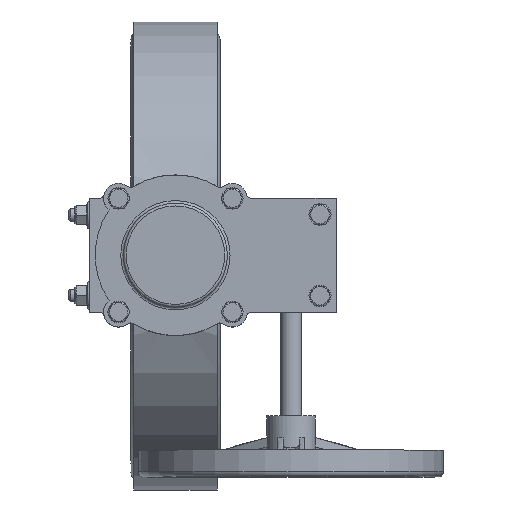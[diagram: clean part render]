
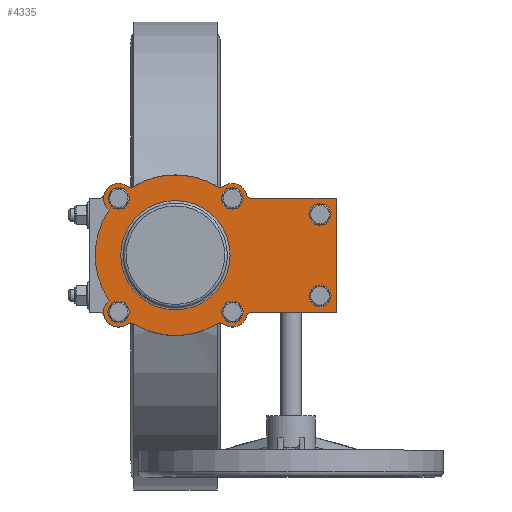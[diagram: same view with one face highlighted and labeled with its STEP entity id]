
A CAD part, top view. The second image highlights one B-rep face of the part: STEP entity #4335.
In plain terms, the highlighted planar face has unit normal (0, 0, 1).
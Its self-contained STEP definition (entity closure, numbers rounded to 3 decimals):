
#4335=ADVANCED_FACE('',(#8663,#8665,#8667,#8669,#8671,#8673,#8675,#8677),#8679,.T.);
#8663=FACE_BOUND('',#8664,.T.);
#8664=EDGE_LOOP('',(#15785,#15786,#15787,#15788,#15789,#15790,#15791,#15792,#15793,
#15794,#15795,#15796,#15797,#15798,#15799,#15800));
#8665=FACE_BOUND('',#8666,.T.);
#8666=EDGE_LOOP('',(#15801));
#8667=FACE_BOUND('',#8668,.T.);
#8668=EDGE_LOOP('',(#15802));
#8669=FACE_BOUND('',#8670,.T.);
#8670=EDGE_LOOP('',(#15803));
#8671=FACE_BOUND('',#8672,.T.);
#8672=EDGE_LOOP('',(#15804));
#8673=FACE_BOUND('',#8674,.T.);
#8674=EDGE_LOOP('',(#15805));
#8675=FACE_BOUND('',#8676,.T.);
#8676=EDGE_LOOP('',(#15806));
#8677=FACE_BOUND('',#8678,.T.);
#8678=EDGE_LOOP('',(#15807));
#8679=PLANE('',#8680);
#8680=AXIS2_PLACEMENT_3D('',#8681,#8682,#8683);
#8681=CARTESIAN_POINT('',(0.,0.,5.));
#8682=DIRECTION('',(0.,0.,1.));
#8683=DIRECTION('',(0.,1.,0.));
#15785=ORIENTED_EDGE('',*,*,#17760,.T.);
#15786=ORIENTED_EDGE('',*,*,#17761,.T.);
#15787=ORIENTED_EDGE('',*,*,#17762,.T.);
#15788=ORIENTED_EDGE('',*,*,#17763,.T.);
#15789=ORIENTED_EDGE('',*,*,#17764,.T.);
#15790=ORIENTED_EDGE('',*,*,#17765,.T.);
#15791=ORIENTED_EDGE('',*,*,#17766,.T.);
#15792=ORIENTED_EDGE('',*,*,#17767,.T.);
#15793=ORIENTED_EDGE('',*,*,#17768,.T.);
#15794=ORIENTED_EDGE('',*,*,#17769,.T.);
#15795=ORIENTED_EDGE('',*,*,#17770,.T.);
#15796=ORIENTED_EDGE('',*,*,#17771,.T.);
#15797=ORIENTED_EDGE('',*,*,#17772,.T.);
#15798=ORIENTED_EDGE('',*,*,#17773,.T.);
#15799=ORIENTED_EDGE('',*,*,#17774,.T.);
#15800=ORIENTED_EDGE('',*,*,#17775,.T.);
#15801=ORIENTED_EDGE('',*,*,#17776,.T.);
#15802=ORIENTED_EDGE('',*,*,#17777,.T.);
#15803=ORIENTED_EDGE('',*,*,#17778,.T.);
#15804=ORIENTED_EDGE('',*,*,#17779,.T.);
#15805=ORIENTED_EDGE('',*,*,#17780,.T.);
#15806=ORIENTED_EDGE('',*,*,#17781,.T.);
#15807=ORIENTED_EDGE('',*,*,#17782,.F.);
#17760=EDGE_CURVE('',#20249,#20250,#20251,.T.);
#17761=EDGE_CURVE('',#20250,#20252,#20253,.T.);
#17762=EDGE_CURVE('',#20252,#20254,#20255,.T.);
#17763=EDGE_CURVE('',#20254,#20256,#20257,.T.);
#17764=EDGE_CURVE('',#20256,#20258,#20259,.T.);
#17765=EDGE_CURVE('',#20258,#20260,#20261,.T.);
#17766=EDGE_CURVE('',#20260,#20262,#20263,.T.);
#17767=EDGE_CURVE('',#20262,#20264,#20265,.T.);
#17768=EDGE_CURVE('',#20264,#20266,#20267,.T.);
#17769=EDGE_CURVE('',#20266,#20268,#20269,.T.);
#17770=EDGE_CURVE('',#20268,#20270,#20271,.T.);
#17771=EDGE_CURVE('',#20270,#20272,#20273,.T.);
#17772=EDGE_CURVE('',#20272,#20274,#20275,.T.);
#17773=EDGE_CURVE('',#20274,#20276,#20277,.T.);
#17774=EDGE_CURVE('',#20276,#20278,#20279,.T.);
#17775=EDGE_CURVE('',#20278,#20249,#20280,.T.);
#17776=EDGE_CURVE('',#20281,#20281,#20282,.F.);
#17777=EDGE_CURVE('',#20283,#20283,#20284,.F.);
#17778=EDGE_CURVE('',#20285,#20285,#20286,.F.);
#17779=EDGE_CURVE('',#20287,#20287,#20288,.F.);
#17780=EDGE_CURVE('',#20289,#20289,#20290,.F.);
#17781=EDGE_CURVE('',#20291,#20291,#20292,.F.);
#17782=EDGE_CURVE('',#20293,#20293,#20294,.T.);
#20249=VERTEX_POINT('',#28095);
#20250=VERTEX_POINT('',#28096);
#20251=CIRCLE('',#28097,5.);
#20252=VERTEX_POINT('',#28101);
#20253=CIRCLE('',#28102,14.);
#20254=VERTEX_POINT('',#28106);
#20255=CIRCLE('',#28107,5.);
#20256=VERTEX_POINT('',#28111);
#20257=LINE('',#28112,#28113);
#20258=VERTEX_POINT('',#28115);
#20259=LINE('',#28116,#28117);
#20260=VERTEX_POINT('',#28119);
#20261=LINE('',#28120,#28121);
#20262=VERTEX_POINT('',#28123);
#20263=CIRCLE('',#28124,5.);
#20264=VERTEX_POINT('',#28128);
#20265=CIRCLE('',#28129,14.);
#20266=VERTEX_POINT('',#28133);
#20267=CIRCLE('',#28134,5.);
#20268=VERTEX_POINT('',#28138);
#20269=CIRCLE('',#28139,75.);
#20270=VERTEX_POINT('',#28143);
#20271=CIRCLE('',#28144,5.);
#20272=VERTEX_POINT('',#28148);
#20273=CIRCLE('',#28149,14.);
#20274=VERTEX_POINT('',#28153);
#20275=CIRCLE('',#28154,75.);
#20276=VERTEX_POINT('',#28158);
#20277=CIRCLE('',#28159,14.);
#20278=VERTEX_POINT('',#28163);
#20279=CIRCLE('',#28164,5.);
#20280=CIRCLE('',#28168,75.);
#20281=VERTEX_POINT('',#28172);
#20282=CIRCLE('',#28173,6.);
#20283=VERTEX_POINT('',#28177);
#20284=CIRCLE('',#28178,6.);
#20285=VERTEX_POINT('',#28182);
#20286=CIRCLE('',#28183,6.);
#20287=VERTEX_POINT('',#28187);
#20288=CIRCLE('',#28188,6.);
#20289=VERTEX_POINT('',#28192);
#20290=CIRCLE('',#28193,6.);
#20291=VERTEX_POINT('',#28197);
#20292=CIRCLE('',#28198,6.);
#20293=VERTEX_POINT('',#28202);
#20294=CIRCLE('',#28203,51.);
#28095=CARTESIAN_POINT('',(64.01,39.086,5.));
#28096=CARTESIAN_POINT('',(64.266,44.677,5.));
#28097=AXIS2_PLACEMENT_3D('',#28098,#28099,#28100);
#28098=CARTESIAN_POINT('',(68.277,41.692,5.));
#28099=DIRECTION('',(0.,0.,-1.));
#28100=DIRECTION('',(-0.853,-0.521,0.));
#28101=CARTESIAN_POINT('',(56.717,66.54,5.));
#28102=AXIS2_PLACEMENT_3D('',#28103,#28104,#28105);
#28103=CARTESIAN_POINT('',(53.033,53.033,5.));
#28104=DIRECTION('',(0.,0.,1.));
#28105=DIRECTION('',(0.802,-0.597,0.));
#28106=CARTESIAN_POINT('',(53.033,71.363,5.));
#28107=AXIS2_PLACEMENT_3D('',#28108,#28109,#28110);
#28108=CARTESIAN_POINT('',(58.033,71.363,5.));
#28109=DIRECTION('',(0.,0.,-1.));
#28110=DIRECTION('',(-0.263,-0.965,0.));
#28111=CARTESIAN_POINT('',(53.033,150.,5.));
#28112=CARTESIAN_POINT('',(53.033,71.363,5.));
#28113=VECTOR('',#28114,1.);
#28114=DIRECTION('',(0.,1.,0.));
#28115=CARTESIAN_POINT('',(-53.033,150.,5.));
#28116=CARTESIAN_POINT('',(53.033,150.,5.));
#28117=VECTOR('',#28118,1.);
#28118=DIRECTION('',(-1.,0.,0.));
#28119=CARTESIAN_POINT('',(-53.033,71.363,5.));
#28120=CARTESIAN_POINT('',(-53.033,150.,5.));
#28121=VECTOR('',#28122,1.);
#28122=DIRECTION('',(0.,-1.,0.));
#28123=CARTESIAN_POINT('',(-56.717,66.54,5.));
#28124=AXIS2_PLACEMENT_3D('',#28125,#28126,#28127);
#28125=CARTESIAN_POINT('',(-58.033,71.363,5.));
#28126=DIRECTION('',(0.,0.,-1.));
#28127=DIRECTION('',(1.,0.,0.));
#28128=CARTESIAN_POINT('',(-64.266,44.677,5.));
#28129=AXIS2_PLACEMENT_3D('',#28130,#28131,#28132);
#28130=CARTESIAN_POINT('',(-53.033,53.033,5.));
#28131=DIRECTION('',(0.,0.,1.));
#28132=DIRECTION('',(-0.263,0.965,0.));
#28133=CARTESIAN_POINT('',(-64.01,39.086,5.));
#28134=AXIS2_PLACEMENT_3D('',#28135,#28136,#28137);
#28135=CARTESIAN_POINT('',(-68.277,41.692,5.));
#28136=DIRECTION('',(0.,0.,-1.));
#28137=DIRECTION('',(0.802,0.597,0.));
#28138=CARTESIAN_POINT('',(-64.01,-39.086,5.));
#28139=AXIS2_PLACEMENT_3D('',#28140,#28141,#28142);
#28140=CARTESIAN_POINT('',(0.,0.,5.));
#28141=DIRECTION('',(0.,0.,1.));
#28142=DIRECTION('',(-0.853,0.521,0.));
#28143=CARTESIAN_POINT('',(-64.266,-44.677,5.));
#28144=AXIS2_PLACEMENT_3D('',#28145,#28146,#28147);
#28145=CARTESIAN_POINT('',(-68.277,-41.692,5.));
#28146=DIRECTION('',(0.,0.,-1.));
#28147=DIRECTION('',(0.853,0.521,0.));
#28148=CARTESIAN_POINT('',(-42.253,-61.965,5.));
#28149=AXIS2_PLACEMENT_3D('',#28150,#28151,#28152);
#28150=CARTESIAN_POINT('',(-53.033,-53.033,5.));
#28151=DIRECTION('',(0.,0.,1.));
#28152=DIRECTION('',(-0.802,0.597,0.));
#28153=CARTESIAN_POINT('',(42.253,-61.965,5.));
#28154=AXIS2_PLACEMENT_3D('',#28155,#28156,#28157);
#28155=CARTESIAN_POINT('',(0.,0.,5.));
#28156=DIRECTION('',(0.,0.,1.));
#28157=DIRECTION('',(-0.563,-0.826,0.));
#28158=CARTESIAN_POINT('',(64.266,-44.677,5.));
#28159=AXIS2_PLACEMENT_3D('',#28160,#28161,#28162);
#28160=CARTESIAN_POINT('',(53.033,-53.033,5.));
#28161=DIRECTION('',(0.,0.,1.));
#28162=DIRECTION('',(-0.77,-0.638,0.));
#28163=CARTESIAN_POINT('',(64.01,-39.086,5.));
#28164=AXIS2_PLACEMENT_3D('',#28165,#28166,#28167);
#28165=CARTESIAN_POINT('',(68.277,-41.692,5.));
#28166=DIRECTION('',(0.,0.,-1.));
#28167=DIRECTION('',(-0.802,-0.597,0.));
#28168=AXIS2_PLACEMENT_3D('',#28169,#28170,#28171);
#28169=CARTESIAN_POINT('',(0.,0.,5.));
#28170=DIRECTION('',(0.,0.,1.));
#28171=DIRECTION('',(0.853,-0.521,0.));
#28172=CARTESIAN_POINT('',(-32.033,135.,5.));
#28173=AXIS2_PLACEMENT_3D('',#28174,#28175,#28176);
#28174=CARTESIAN_POINT('',(-38.033,135.,5.));
#28175=DIRECTION('',(0.,0.,1.));
#28176=DIRECTION('',(1.,0.,0.));
#28177=CARTESIAN_POINT('',(44.033,135.,5.));
#28178=AXIS2_PLACEMENT_3D('',#28179,#28180,#28181);
#28179=CARTESIAN_POINT('',(38.033,135.,5.));
#28180=DIRECTION('',(0.,0.,1.));
#28181=DIRECTION('',(1.,0.,0.));
#28182=CARTESIAN_POINT('',(53.033,59.033,5.));
#28183=AXIS2_PLACEMENT_3D('',#28184,#28185,#28186);
#28184=CARTESIAN_POINT('',(53.033,53.033,5.));
#28185=DIRECTION('',(0.,0.,1.));
#28186=DIRECTION('',(0.,1.,0.));
#28187=CARTESIAN_POINT('',(59.033,-53.033,5.));
#28188=AXIS2_PLACEMENT_3D('',#28189,#28190,#28191);
#28189=CARTESIAN_POINT('',(53.033,-53.033,5.));
#28190=DIRECTION('',(0.,0.,1.));
#28191=DIRECTION('',(1.,0.,0.));
#28192=CARTESIAN_POINT('',(-53.033,-59.033,5.));
#28193=AXIS2_PLACEMENT_3D('',#28194,#28195,#28196);
#28194=CARTESIAN_POINT('',(-53.033,-53.033,5.));
#28195=DIRECTION('',(0.,0.,1.));
#28196=DIRECTION('',(0.,-1.,0.));
#28197=CARTESIAN_POINT('',(-59.033,53.033,5.));
#28198=AXIS2_PLACEMENT_3D('',#28199,#28200,#28201);
#28199=CARTESIAN_POINT('',(-53.033,53.033,5.));
#28200=DIRECTION('',(0.,0.,1.));
#28201=DIRECTION('',(-1.,0.,0.));
#28202=CARTESIAN_POINT('',(-51.,0.,5.));
#28203=AXIS2_PLACEMENT_3D('',#28204,#28205,#28206);
#28204=CARTESIAN_POINT('',(0.,0.,5.));
#28205=DIRECTION('',(0.,0.,1.));
#28206=DIRECTION('',(-1.,0.,0.));
